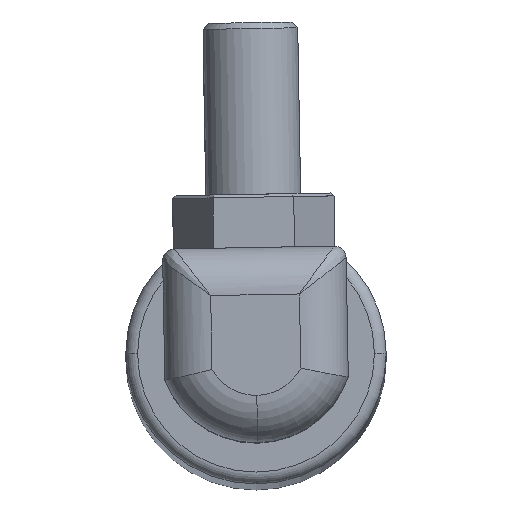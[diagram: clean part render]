
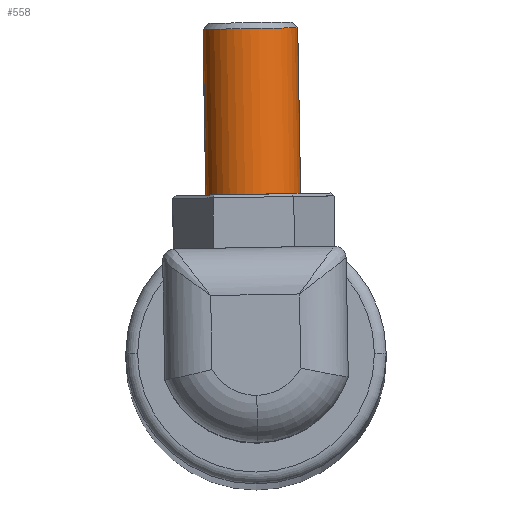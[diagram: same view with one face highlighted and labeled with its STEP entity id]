
A CAD part, top view. The second image highlights one B-rep face of the part: STEP entity #558.
In plain terms, the highlighted cylindrical face has radius 4 mm (diameter 8 mm), a partial arc.
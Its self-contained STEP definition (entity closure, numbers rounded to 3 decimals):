
#177 = AXIS2_PLACEMENT_3D ( 'NONE', #1474, #2482, #1711 ) ;
#248 = DIRECTION ( 'NONE',  ( 0., 0., 1. ) ) ;
#251 = EDGE_LOOP ( 'NONE', ( #375, #1431, #2360, #451 ) ) ;
#337 = CIRCLE ( 'NONE', #664, 4. ) ;
#339 = DIRECTION ( 'NONE',  ( 0., 0., 1. ) ) ;
#375 = ORIENTED_EDGE ( 'NONE', *, *, #1078, .T. ) ;
#451 = ORIENTED_EDGE ( 'NONE', *, *, #1810, .F. ) ;
#505 = LINE ( 'NONE', #1290, #991 ) ;
#558 = ADVANCED_FACE ( 'NONE', ( #1188 ), #2136, .T. ) ;
#601 = CARTESIAN_POINT ( 'NONE',  ( 0., 19., -27.25 ) ) ;
#664 = AXIS2_PLACEMENT_3D ( 'NONE', #1223, #1260, #2054 ) ;
#835 = VERTEX_POINT ( 'NONE', #1226 ) ;
#991 = VECTOR ( 'NONE', #339, 1000. ) ;
#1009 = LINE ( 'NONE', #2219, #1573 ) ;
#1022 = DIRECTION ( 'NONE',  ( 1., 0., 0. ) ) ;
#1078 = EDGE_CURVE ( 'NONE', #2379, #835, #337, .T. ) ;
#1188 = FACE_OUTER_BOUND ( 'NONE', #251, .T. ) ;
#1202 = DIRECTION ( 'NONE',  ( 0., 0., 1. ) ) ;
#1223 = CARTESIAN_POINT ( 'NONE',  ( 0., 19., -26.75 ) ) ;
#1226 = CARTESIAN_POINT ( 'NONE',  ( -4., 19., -26.75 ) ) ;
#1260 = DIRECTION ( 'NONE',  ( 0., 0., 1. ) ) ;
#1290 = CARTESIAN_POINT ( 'NONE',  ( 4., 19., -27.25 ) ) ;
#1431 = ORIENTED_EDGE ( 'NONE', *, *, #1976, .T. ) ;
#1453 = CARTESIAN_POINT ( 'NONE',  ( 4., 19., -26.75 ) ) ;
#1474 = CARTESIAN_POINT ( 'NONE',  ( 0., 19., -12.75 ) ) ;
#1479 = EDGE_CURVE ( 'NONE', #2440, #1999, #2202, .T. ) ;
#1573 = VECTOR ( 'NONE', #248, 1000. ) ;
#1711 = DIRECTION ( 'NONE',  ( -1., 0., 0. ) ) ;
#1810 = EDGE_CURVE ( 'NONE', #2379, #1999, #505, .T. ) ;
#1822 = CARTESIAN_POINT ( 'NONE',  ( 4., 19., -12.75 ) ) ;
#1827 = AXIS2_PLACEMENT_3D ( 'NONE', #601, #1202, #1022 ) ;
#1906 = CARTESIAN_POINT ( 'NONE',  ( -4., 19., -12.75 ) ) ;
#1976 = EDGE_CURVE ( 'NONE', #835, #2440, #1009, .T. ) ;
#1999 = VERTEX_POINT ( 'NONE', #1822 ) ;
#2054 = DIRECTION ( 'NONE',  ( -1., 0., 0. ) ) ;
#2136 = CYLINDRICAL_SURFACE ( 'NONE', #1827, 4. ) ;
#2202 = CIRCLE ( 'NONE', #177, 4. ) ;
#2219 = CARTESIAN_POINT ( 'NONE',  ( -4., 19., -27.25 ) ) ;
#2360 = ORIENTED_EDGE ( 'NONE', *, *, #1479, .T. ) ;
#2379 = VERTEX_POINT ( 'NONE', #1453 ) ;
#2440 = VERTEX_POINT ( 'NONE', #1906 ) ;
#2482 = DIRECTION ( 'NONE',  ( 0., 0., -1. ) ) ;
